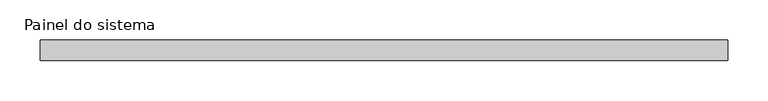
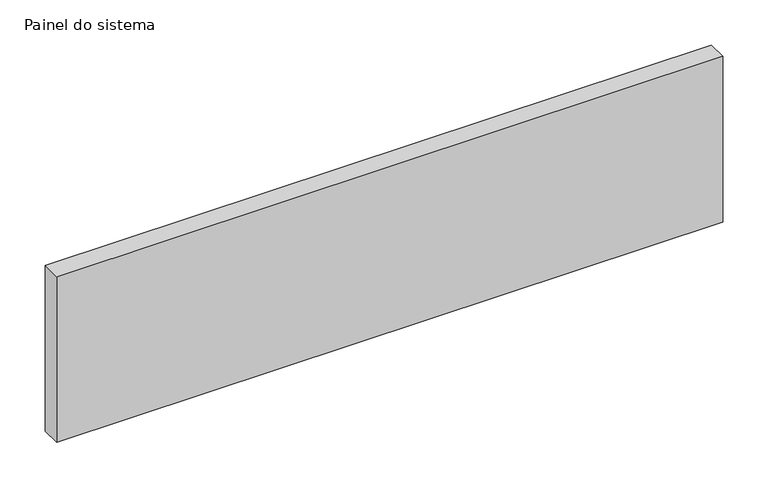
"""IFC4 building model written with IfcOpenShell, lengths in millimetres: plate geometry, Painel do sistema : Envidraçado."""

from ifc_helpers import new_model, si_unit, origin, origin_with_axes, place, context, project, spatial, polyline, outline, extrude, source, transform, mapped, element, save


def painel_do_sistema_0eb7bc7c(model_context):
    return source(origin(), model_context, "Body", "SweptSolid", [
        extrude(outline(polyline([(425.0, 24.5), (-425.0, 24.5), (-425.0, 49.5), (425.0, 49.5), (425.0, 24.5)])), origin_with_axes(), (0.0, 0.0, 1.0), 223.6217085),
    ])


if __name__ == "__main__":
    model = new_model("IFC4")
    model_context = context("Model", 3, world=origin())
    ifc_project = project(units=[si_unit("LENGTHUNIT", "METRE", prefix="MILLI")], contexts=[model_context])
    site = spatial("IfcSite", under=ifc_project)
    building = spatial("IfcBuilding", under=site)
    placement = place(None, origin())
    painel_do_sistema_shape = painel_do_sistema_0eb7bc7c(model_context)
    element("IfcPlate", 1, ObjectType="Painel do sistema : Envidraçado", at=placement, inside=building, context=model_context, shape_type="MappedRepresentation", body=[
        mapped(painel_do_sistema_shape, transform((0.0, 0.0, 0.0), x_axis=(1.0, 0.0, 0.0), y_axis=(0.0, 1.0, 0.0), z_axis=(0.0, 0.0, 1.0))),
    ])
    save(model, "model.ifc")
